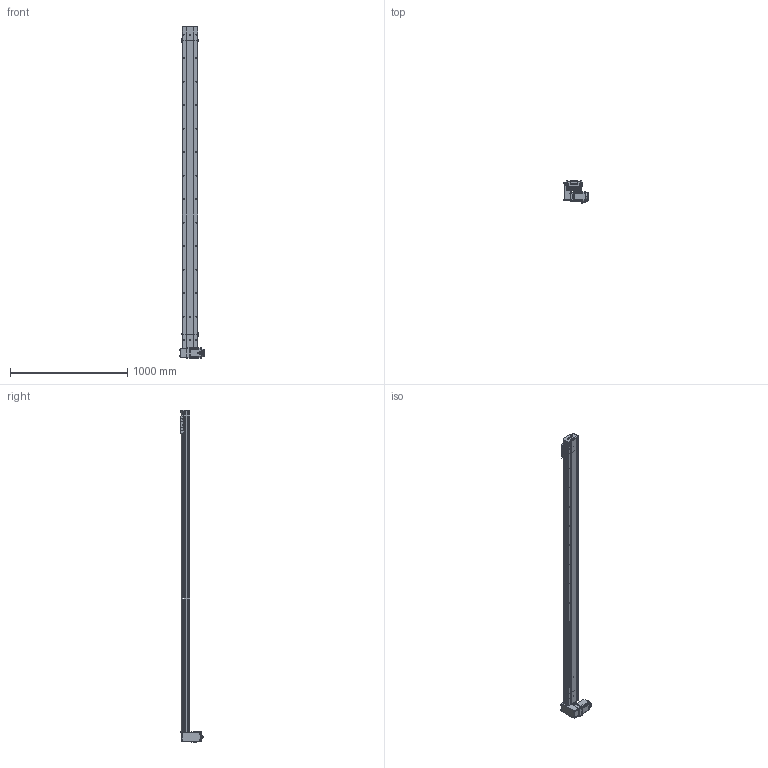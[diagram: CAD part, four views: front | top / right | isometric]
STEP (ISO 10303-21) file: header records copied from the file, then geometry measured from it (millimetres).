
FILE_DESCRIPTION (( 'STEP AP214' ), '1' );
FILE_NAME ('D14 TBH RU S2500.STEP', '2010-06-29T14:31:37', ( 'Conseil Régional Haute-Normandie' ), ( 'Conseil Régional Haute-Normandie' ), 'SwSTEP 2.0', 'SolidWorks 2010', '' );
FILE_SCHEMA (( 'AUTOMOTIVE_DESIGN' ));
Length unit declared in the file: millimetre
Products named in the file (39): couvercle D14 course L2500_Default; D14 TBH RU S2500; corpl 2500_Default; D14 couroie L2500_Default; Tail D14B_Default; corpl tail D14_Default; plaque de  bout tail D14_Default; tete d''axe haut D14; vis M5 L16_Default; Rail + couroie D14 Course 2500 ; vis M5 L5_Default; renvoi RH_Default; guide D14; Vis M5 L16-2_Default; vis M5 L12_Default; Chariot D14; Cvis M5 L70_Default; chariot D14B_Default; Arbre+rail tail D14; Cache arbre_Default; Plaque racord D14_Default; Conecteur_Default; Conecteur2_Default; codeur 90BLDC100-640; couvercle D14_Default; couvercle D14 head_Default; couroie 2_Default; poulie head_Default; corps 90BLDC100A-640; avant 90BLDC100A-640; Moteur motionking 90BLDC100A-640; Arbre+rail head D14; plaque de  bout head D14 RU_Default; corp head D14_Default; D14 TB H RU_Default; Couroie_Default; poulie tail_Default; vis M5 L8 90°_Default; Cache_Default
Assembly tree (68 placements, depth 4):
  D14 TBH RU S2500
    Tail D14B_Default
      Couroie_Default
      vis M5 L8 90°_Default  x2
      vis M5 L16_Default  x2
      poulie tail_Default
      vis M5 L12_Default  x4
      couvercle D14_Default
      tete d''axe haut D14
      Arbre+rail tail D14
      plaque de  bout tail D14_Default
      corpl tail D14_Default
    chariot D14B_Default
      vis M5 L12_Default  x4
      Chariot D14
      guide D14  x2
    D14 couroie L2500_Default
      Rail + couroie D14 Course 2500 
      couvercle D14 course L2500_Default
      corpl 2500_Default
    D14 TB H RU_Default
      vis M5 L12_Default  x12
      couroie 2_Default
      Cvis M5 L70_Default  x4
      corp head D14_Default
      vis M5 L5_Default  x2
      Moteur motionking 90BLDC100A-640
        codeur 90BLDC100-640
        avant 90BLDC100A-640
        corps 90BLDC100A-640
        Conecteur_Default
        Conecteur2_Default
      Plaque racord D14_Default
      Vis M5 L16-2_Default  x4
      Cache_Default  x2
      Cache arbre_Default
      plaque de  bout head D14 RU_Default
      renvoi RH_Default
      couvercle D14 head_Default
      Arbre+rail head D14
      poulie head_Default
Bounding box: 207.2 x 191.1 x 2825.75 mm (x, y, z)
Volume: 10644022.2 mm3; surface area: 3832691.8 mm2
Topology: 92 solids, 92 shells, 2725 faces, 6647 edges, 4290 vertices
Faces by surface type: plane 1613, cylinder 799, bspline 136, torus 89, cone 84, sphere 4
Entity records: 81980 total; most frequent: CARTESIAN_POINT 24001, ORIENTED_EDGE 10154, DIRECTION 10048, EDGE_CURVE 5077, AXIS2_PLACEMENT_3D 3351, LINE 3346, VECTOR 3346, VERTEX_POINT 3340
